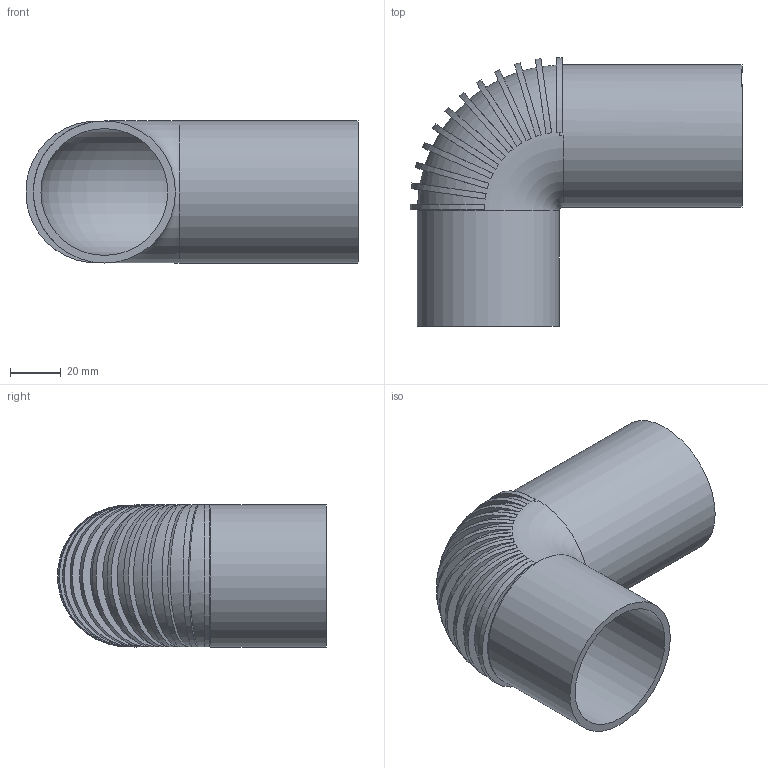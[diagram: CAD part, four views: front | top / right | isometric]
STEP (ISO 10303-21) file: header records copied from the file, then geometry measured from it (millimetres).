
FILE_DESCRIPTION(/* description */ (''),/* implementation_level */ '2;1');
FILE_NAME(/* name */ 'Z:\Geberit\Export\NewStep\305905.stp',/* time_stamp */ '2014-04-01T20:03:04+02:00',/* author */ ('Judith'),/* organization */ (''),/* preprocessor_version */ 'ST-DEVELOPER v15.2',/* originating_system */ 'Autodesk Inventor 2014',/* authorisation */ '');
FILE_SCHEMA (('AUTOMOTIVE_DESIGN { 1 0 10303 214 3 1 1 }'));
Length unit declared in the file: millimetre
Products named in the file (1): 305905
Bounding box: 130.9 x 105.9 x 56 mm (x, y, z)
Volume: 86194.9 mm3; surface area: 59795.6 mm2
Topology: 1 solids, 1 shells, 46 faces, 100 edges, 67 vertices
Faces by surface type: plane 28, cylinder 16, torus 2
Full cylindrical faces by diameter (mm): 50 x2, 56 x2
Entity records: 2034 total; most frequent: CARTESIAN_POINT 1062, ORIENTED_EDGE 180, DIRECTION 170, EDGE_CURVE 90, AXIS2_PLACEMENT_3D 84, EDGE_LOOP 65, VERTEX_POINT 63, B_SPLINE_CURVE_WITH_KNOTS 51
